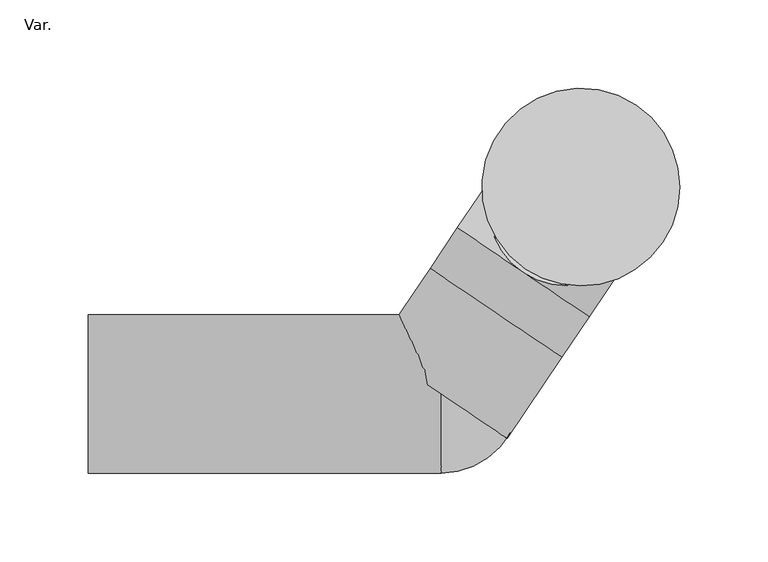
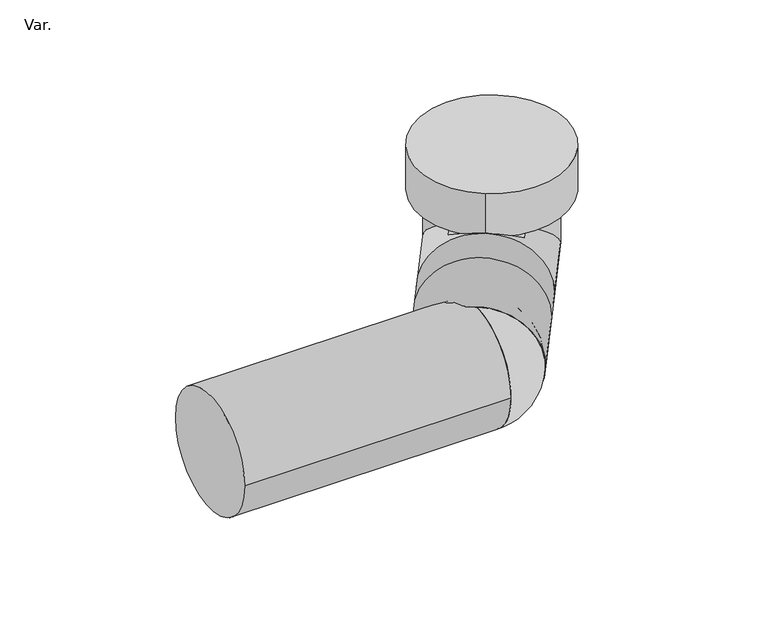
"""IFC4 building model written with IfcOpenShell, lengths in millimetres: pipe fitting geometry, PIF_HDPE wall lavatory bend angled_Akatherm : Var.."""

from ifc_helpers import new_model, si_unit, point, frame, frame_2d, origin, origin_2d, place, context, project, spatial, circle_curve, ellipse_curve, trimmed, segment, composite_curve, outline, extrude, source, transform, mapped, element, save
from ifc_brep_helpers import plane_surface, cylinder_surface, revolved_surface, advanced_brep


def var_0cec4f12(model_context):
    return source(origin(), model_context, "Body", "SolidModel", [
        advanced_brep(
        [(-37.3066908, 25.1636807, 0.0), (37.3066908, -25.1636807, 0.0), (68.2859776, 20.7650009, 0.0), (-6.3274039, 71.0923622, 0.0), (83.775621, 43.7293416, 0.0), (9.1622395, 94.0567029, 0.0)],
        [
            (0, 1, circle_curve(frame((0.0, 0.0, 0.0), z_axis=(-0.5591929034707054, -0.8290375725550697, 0.0), x_axis=(0.8290375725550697, -0.5591929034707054, 0.0)), 45.0)),
            (1, 0, circle_curve(frame((0.0, 0.0, 0.0), z_axis=(-0.5591929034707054, -0.8290375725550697, 0.0), x_axis=(0.8290375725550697, -0.5591929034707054, 0.0)), 45.0)),
            (1, 2),
            (2, 3, circle_curve(frame((30.9792869, 45.9286815, 0.0), z_axis=(-0.5591929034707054, -0.8290375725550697, 0.0), x_axis=(0.8290375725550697, -0.5591929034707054, 0.0)), 45.0)),
            (3, 0),
            (3, 2, circle_curve(frame((30.9792869, 45.9286815, 0.0), z_axis=(-0.5591929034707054, -0.8290375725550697, 0.0), x_axis=(0.8290375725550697, -0.5591929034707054, 0.0)), 45.0)),
            (4, 5, circle_curve(frame((46.4689303, 68.8930223, 0.0), z_axis=(0.5591929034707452, 0.8290375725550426, 0.0), x_axis=(0.0, 0.0, -1.0)), 45.0)),
            (5, 4, circle_curve(frame((46.4689303, 68.8930223, 0.0), z_axis=(0.5591929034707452, 0.8290375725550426, 0.0), x_axis=(0.0, 0.0, 1.0)), 45.0)),
            (4, 2),
            (3, 5),
        ],
        [
            plane_surface(frame((0.0, 0.0, 0.0), z_axis=(-0.5591929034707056, -0.8290375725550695, 0.0), x_axis=(0.0, 0.0, 1.0))),
            cylinder_surface(frame((30.9792869, 45.9286815, 0.0), z_axis=(0.5591929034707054, 0.8290375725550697, 0.0), x_axis=(0.8290375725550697, -0.5591929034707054, 0.0)), 45.0),
            plane_surface(frame((46.4689303, 68.8930223, 0.0), z_axis=(0.5591929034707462, 0.8290375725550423, 0.0), x_axis=(0.0, 0.0, -1.0))),
            cylinder_surface(frame((30.9792869, 45.9286815, 0.0), z_axis=(0.5591929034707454, 0.8290375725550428, 0.0), x_axis=(0.0, 0.0, -1.0)), 45.0),
            cylinder_surface(frame((30.9792869, 45.9286815, 0.0), z_axis=(0.5591929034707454, 0.8290375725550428, 0.0), x_axis=(0.0, 0.0, 1.0)), 45.0),
        ],
        [
            (0, [[1, 2]]),
            (1, [[-2, 3, 4, 5]]),
            (1, [[-1, -5, 6, -3]]),
            (2, [[7, 8]]),
            (3, [[-7, 9, -6, 10]]),
            (4, [[-8, -10, -4, -9]]),
        ],
    ),
        advanced_brep(
        [(30.0408278, 89.0205519, 37.5), (71.2849263, 61.2010562, 37.5), (78.7221919, 72.2272559, 37.5), (104.2335572, 154.5326035, 37.5), (37.4780934, 100.0467516, 37.5), (104.2335572, 154.5326035, 0.0), (116.3765673, 92.0622321, 0.0), (41.7631858, 142.3895934, 0.0), (46.4689303, 68.8930223, 45.0), (9.1622395, 94.0567029, 0.0), (83.775621, 43.7293416, 0.0)],
        [
            (0, 1),
            (1, 2),
            (2, 3, circle_curve(frame((79.0698766, 117.2259128, 37.5), z_axis=(0.0, 0.0, 1.0), x_axis=(-0.5591929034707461, -0.8290375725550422, 0.0)), 45.0)),
            (3, 4, circle_curve(frame((79.0698766, 117.2259128, 37.5), z_axis=(0.0, 0.0, 1.0), x_axis=(-0.5591929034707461, -0.8290375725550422, 0.0)), 45.0)),
            (4, 0),
            (5, 3),
            (2, 6, ellipse_curve(frame((79.0698766, 117.2259128, 0.0), z_axis=(0.3954090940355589, 0.5862180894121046, 0.7071067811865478), x_axis=(0.3954090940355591, 0.5862180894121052, -0.7071067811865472)), 63.6396103, 45.0)),
            (6, 5, circle_curve(frame((79.0698766, 117.2259128, 0.0), z_axis=(0.0, 0.0, 1.0), x_axis=(-0.5591929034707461, -0.8290375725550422, 0.0)), 45.0)),
            (5, 7, circle_curve(frame((79.0698766, 117.2259128, 0.0), z_axis=(0.0, 0.0, 1.0), x_axis=(-0.5591929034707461, -0.8290375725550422, 0.0)), 45.0)),
            (7, 4, ellipse_curve(frame((79.0698766, 117.2259128, 0.0), z_axis=(0.3954090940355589, 0.5862180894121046, 0.7071067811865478), x_axis=(0.3954090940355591, 0.5862180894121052, -0.7071067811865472)), 63.6396103, 45.0)),
            (0, 8, ellipse_curve(frame((71.6326109, 106.199713, 0.0), z_axis=(0.39540909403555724, 0.586218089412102, 0.7071067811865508), x_axis=(-0.3954090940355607, -0.5862180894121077, 0.7071067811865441)), 63.6396103, 45.0)),
            (8, 1, ellipse_curve(frame((71.6326109, 106.199713, 0.0), z_axis=(0.39540909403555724, 0.586218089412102, 0.7071067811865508), x_axis=(-0.3954090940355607, -0.5862180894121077, 0.7071067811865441)), 63.6396103, 45.0)),
            (6, 7, circle_curve(frame((79.0698766, 117.2259128, 0.0), z_axis=(0.5591929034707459, 0.8290375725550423, 0.0), x_axis=(0.0, 0.0, 1.0)), 45.0)),
            (9, 10, circle_curve(frame((46.4689303, 68.8930223, 0.0), z_axis=(-0.5591929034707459, -0.8290375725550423, 0.0), x_axis=(-0.8290375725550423, 0.5591929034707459, 0.0)), 45.0)),
            (10, 8, circle_curve(frame((46.4689303, 68.8930223, 0.0), z_axis=(-0.5591929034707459, -0.8290375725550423, 0.0), x_axis=(-0.8290375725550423, 0.5591929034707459, 0.0)), 45.0)),
            (8, 9, circle_curve(frame((46.4689303, 68.8930223, 0.0), z_axis=(-0.5591929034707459, -0.8290375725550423, 0.0), x_axis=(-0.8290375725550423, 0.5591929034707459, 0.0)), 45.0)),
            (10, 6),
            (7, 9),
        ],
        [
            plane_surface(frame((79.0698766, 117.2259128, 37.5), z_axis=(0.0, 0.0, 1.0), x_axis=(0.8290375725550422, -0.5591929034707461, 0.0))),
            cylinder_surface(frame((79.0698766, 117.2259128, 0.0), z_axis=(0.0, 0.0, -1.0), x_axis=(-0.5591929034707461, -0.8290375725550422, 0.0)), 45.0),
            plane_surface(frame((5.0658106, 105.8664138, 37.5), z_axis=(0.39540909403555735, 0.5862180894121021, 0.7071067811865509), x_axis=(0.8290375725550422, -0.5591929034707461, 0.0))),
            revolved_surface(trimmed(ellipse_curve(frame((79.0698766, 117.2259128, 0.0), z_axis=(0.5591929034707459, 0.8290375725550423, 0.0), x_axis=(0.0, 0.0, 1.0)), 45.0, 45.0), [point((116.3765673, 92.0622321, 0.0))], [point((41.7631858, 142.3895934, 0.0))], True, "CARTESIAN"), (166.1188217, 58.5106579, 0.0), (-0.8290375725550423, 0.5591929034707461, 0.0)),
            plane_surface(frame((46.4689303, 68.8930223, 0.0), z_axis=(-0.559192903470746, -0.8290375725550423, 0.0), x_axis=(0.0, 0.0, 1.0))),
            cylinder_surface(frame((46.4689303, 68.8930223, 0.0), z_axis=(-0.5591929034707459, -0.8290375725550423, 0.0), x_axis=(-0.8290375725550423, 0.5591929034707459, 0.0)), 45.0),
        ],
        [
            (0, [[1, 2, 3, 4, 5]]),
            (1, [[6, -3, 7, 8]]),
            (1, [[-6, 9, 10, -4]]),
            (2, [[-1, 11, 12]]),
            (3, [[-8, 13, -9]]),
            (4, [[14, 15, 16]]),
            (5, [[17, -7, -2, -12, -15]]),
            (5, [[18, -16, -11, -5, -10]]),
            (5, [[-14, -18, -13, -17]]),
        ],
    ),
        extrude(outline(composite_curve([segment(trimmed(circle_curve(frame_2d((79.0698766, 117.2259128)), 50.0), [point((107.0295217, 158.6777914))], [point((51.1102314, 75.7740341))], False, "CARTESIAN"), True, "CONTINUOUS"), segment(trimmed(circle_curve(frame_2d((79.0698766, 117.2259128)), 50.0), [point((51.1102314, 75.7740341))], [point((107.0295217, 158.6777914))], False, "CARTESIAN"), True, "CONTINUOUS")], self_intersect=False)), frame((0.0, 0.0, 37.5), z_axis=(0.0, 0.0, 1.0), x_axis=(1.0, 0.0, 0.0)), (0.0, 0.0, 1.0), 3.0),
        extrude(outline(composite_curve([segment(trimmed(circle_curve(frame_2d((79.0698766, 117.2259128)), 56.0), [point((110.3846791, 163.6520168))], [point((47.755074, 70.7998087))], False, "CARTESIAN"), True, "CONTINUOUS"), segment(trimmed(circle_curve(frame_2d((79.0698766, 117.2259128)), 56.0), [point((47.755074, 70.7998087))], [point((110.3846791, 163.6520168))], False, "CARTESIAN"), True, "CONTINUOUS")], self_intersect=False)), frame((0.0, 0.0, 40.5), z_axis=(0.0, 0.0, 1.0), x_axis=(1.0, 0.0, 0.0)), (0.0, 0.0, 1.0), 34.5),
        advanced_brep(
        [(0.0, 0.0, -45.0), (0.0, 0.0, 45.0)],
        [
            (0, 1, circle_curve(frame((0.0, 0.0, 0.0), z_axis=(-1.0, 0.0, 0.0), x_axis=(0.0, 1.0, 0.0)), 45.0)),
            (1, 0),
            (1, 0, circle_curve(frame((0.0, 0.0, 0.0), z_axis=(-1.0, 0.0, 0.0), x_axis=(0.0, -1.0, 0.0)), 45.0)),
        ],
        [
            plane_surface(frame((0.0, 0.0, 110.0), z_axis=(-1.0, 0.0, 0.0), x_axis=(0.0, -1.0, 0.0))),
            plane_surface(frame((0.0, 0.0, 110.0), z_axis=(-1.0, 0.0, 0.0), x_axis=(0.0, 1.0, 0.0))),
            revolved_surface(trimmed(ellipse_curve(frame((0.0, 0.0, 0.0), z_axis=(1.0, 0.0, 0.0), x_axis=(0.0, 1.0, 0.0)), 45.0, 45.0), [point((0.0, 0.0, 45.0))], [point((0.0, 0.0, -45.0))], True, "CARTESIAN"), (0.0, 0.0, 110.0), (0.0, 0.0, -1.0)),
        ],
        [
            (0, [[1, 2]]),
            (1, [[3, -2]]),
            (2, [[-1, -3]]),
        ],
    ),
        extrude(outline(composite_curve([segment(trimmed(circle_curve(origin_2d(), 45.0), [point((-45.0, 0.0))], [point((45.0, 0.0))], False, "CARTESIAN"), True, "CONTINUOUS"), segment(trimmed(circle_curve(origin_2d(), 45.0), [point((45.0, 0.0))], [point((-45.0, 0.0))], False, "CARTESIAN"), True, "CONTINUOUS")], self_intersect=False)), frame((-200.0, 0.0, 0.0), z_axis=(1.0, 0.0, 0.0), x_axis=(0.0, 1.0, 0.0)), (0.0, 0.0, 1.0), 200.0),
    ])


if __name__ == "__main__":
    model = new_model("IFC4")
    model_context = context("Model", 3, world=origin())
    ifc_project = project(units=[si_unit("LENGTHUNIT", "METRE", prefix="MILLI")], contexts=[model_context])
    site = spatial("IfcSite", under=ifc_project)
    building = spatial("IfcBuilding", under=site)
    placement = place(None, origin())
    var_shape = var_0cec4f12(model_context)
    element("IfcPipeFitting", 1, ObjectType="PIF_HDPE wall lavatory bend angled_Akatherm : Var.", at=placement, inside=building, context=model_context, shape_type="MappedRepresentation", body=[
        mapped(var_shape, transform((0.0, 0.0, 0.0), x_axis=(1.0, 0.0, 0.0), y_axis=(0.0, 1.0, 0.0), z_axis=(0.0, 0.0, 1.0))),
    ])
    save(model, "model.ifc")
